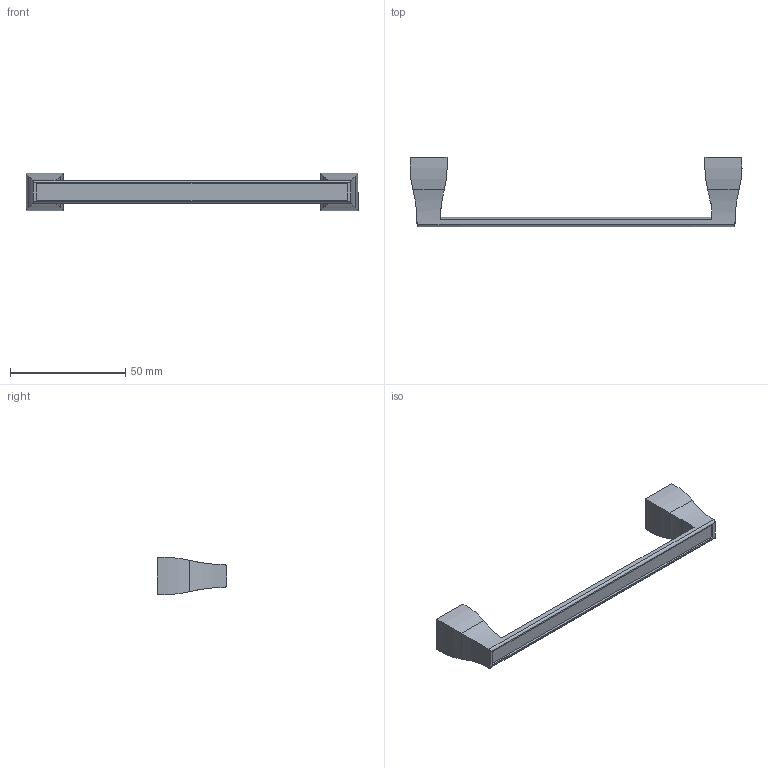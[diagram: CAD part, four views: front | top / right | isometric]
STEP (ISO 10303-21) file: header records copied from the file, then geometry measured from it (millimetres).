
FILE_DESCRIPTION( ( '' ), '1' );
FILE_NAME( '//10.120.51.241/design/Data Transfer/Sachin/New Folder/115263.stp', '2013-10-23T12:42:25', ( '' ), ( '' ), ' ', ' ', ' ' );
FILE_SCHEMA( ( 'CONFIG_CONTROL_DESIGN' ) );
Length unit declared in the file: millimetre
Products named in the file (1): 1
Bounding box: 144.13 x 30 x 16.13 mm (x, y, z)
Volume: 13827.9 mm3; surface area: 7285.3 mm2
Topology: 1 solids, 1 shells, 33 faces, 78 edges, 50 vertices
Faces by surface type: cylinder 21, plane 12
Entity records: 1042 total; most frequent: CARTESIAN_POINT 219, DIRECTION 168, ORIENTED_EDGE 156, EDGE_CURVE 78, AXIS2_PLACEMENT_3D 61, VERTEX_POINT 50, LINE 46, VECTOR 46
